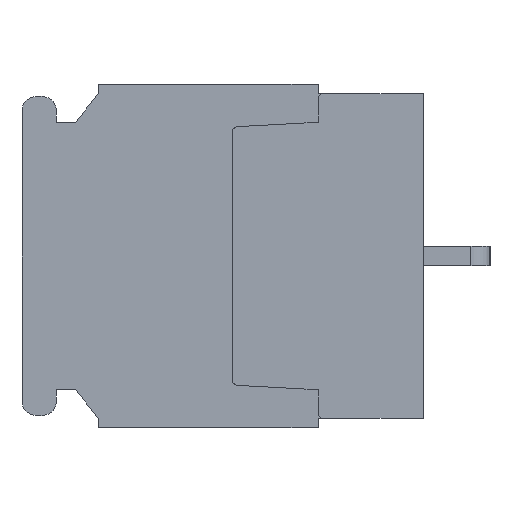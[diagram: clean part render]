
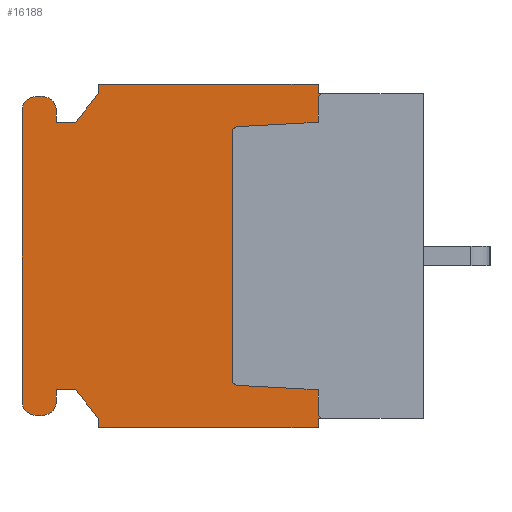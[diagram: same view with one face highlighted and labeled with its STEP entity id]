
A CAD part, left-side view. The second image highlights one B-rep face of the part: STEP entity #16188.
In plain terms, the highlighted planar face has unit normal (-1, 0, 0).
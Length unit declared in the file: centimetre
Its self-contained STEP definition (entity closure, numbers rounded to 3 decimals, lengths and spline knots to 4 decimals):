
#604=VECTOR('',#16896,1.);
#658=VECTOR('',#16952,1.);
#1254=VECTOR('',#18489,1.);
#1256=VECTOR('',#18492,1.);
#1258=VECTOR('',#18495,1.);
#1259=VECTOR('',#18497,1.);
#1261=VECTOR('',#18500,1.);
#1263=VECTOR('',#18503,1.);
#1265=VECTOR('',#18506,1.);
#1267=VECTOR('',#18509,1.);
#1269=VECTOR('',#18512,1.);
#1272=VECTOR('',#18520,1.);
#1275=VECTOR('',#18528,1.);
#1278=VECTOR('',#18536,1.);
#1281=VECTOR('',#18544,1.);
#1283=VECTOR('',#18547,1.);
#1285=VECTOR('',#18550,1.);
#1777=VECTOR('',#19288,1.);
#1778=VECTOR('',#19289,1.);
#1779=VECTOR('',#19292,1.);
#1780=VECTOR('',#19295,1.);
#1781=VECTOR('',#19296,1.);
#2280=LINE('',#20356,#604);
#2334=LINE('',#20463,#658);
#2930=LINE('',#22422,#1254);
#2932=LINE('',#22426,#1256);
#2934=LINE('',#22430,#1258);
#2935=LINE('',#22432,#1259);
#2937=LINE('',#22436,#1261);
#2939=LINE('',#22440,#1263);
#2941=LINE('',#22444,#1265);
#2943=LINE('',#22448,#1267);
#2945=LINE('',#22452,#1269);
#2948=LINE('',#22460,#1272);
#2951=LINE('',#22468,#1275);
#2954=LINE('',#22476,#1278);
#2957=LINE('',#22484,#1281);
#2959=LINE('',#22488,#1283);
#2961=LINE('',#22492,#1285);
#3453=LINE('',#24219,#1777);
#3454=LINE('',#24221,#1778);
#3455=LINE('',#24225,#1779);
#3456=LINE('',#24229,#1780);
#3457=LINE('',#24231,#1781);
#4326=PLANE('',#26748);
#4732=CIRCLE('',#26529,0.075);
#4733=CIRCLE('',#26532,0.075);
#4734=CIRCLE('',#26535,0.075);
#4735=CIRCLE('',#26538,0.075);
#4758=CIRCLE('',#26749,0.03);
#4759=CIRCLE('',#26750,0.03);
#4760=CIRCLE('',#26751,0.03);
#4761=CIRCLE('',#26752,0.03);
#4957=VERTEX_POINT('',#20355);
#4958=VERTEX_POINT('',#20357);
#5008=VERTEX_POINT('',#20462);
#5009=VERTEX_POINT('',#20464);
#5574=VERTEX_POINT('',#22421);
#5575=VERTEX_POINT('',#22423);
#5576=VERTEX_POINT('',#22427);
#5577=VERTEX_POINT('',#22433);
#5578=VERTEX_POINT('',#22437);
#5579=VERTEX_POINT('',#22441);
#5580=VERTEX_POINT('',#22445);
#5581=VERTEX_POINT('',#22449);
#5582=VERTEX_POINT('',#22453);
#5583=VERTEX_POINT('',#22457);
#5584=VERTEX_POINT('',#22461);
#5585=VERTEX_POINT('',#22465);
#5586=VERTEX_POINT('',#22469);
#5587=VERTEX_POINT('',#22473);
#5588=VERTEX_POINT('',#22477);
#5589=VERTEX_POINT('',#22481);
#5590=VERTEX_POINT('',#22485);
#5591=VERTEX_POINT('',#22489);
#5994=VERTEX_POINT('',#24218);
#5995=VERTEX_POINT('',#24220);
#5996=VERTEX_POINT('',#24222);
#5997=VERTEX_POINT('',#24224);
#5998=VERTEX_POINT('',#24226);
#5999=VERTEX_POINT('',#24228);
#6000=VERTEX_POINT('',#24230);
#6001=VERTEX_POINT('',#24232);
#6638=EDGE_CURVE('',#4958,#4957,#2280,.T.);
#6692=EDGE_CURVE('',#5009,#5008,#2334,.T.);
#7592=EDGE_CURVE('',#5575,#5574,#2930,.T.);
#7594=EDGE_CURVE('',#5576,#5575,#2932,.T.);
#7596=EDGE_CURVE('',#4957,#5576,#2934,.T.);
#7597=EDGE_CURVE('',#5577,#5009,#2935,.T.);
#7599=EDGE_CURVE('',#5578,#5577,#2937,.T.);
#7601=EDGE_CURVE('',#5579,#5578,#2939,.T.);
#7603=EDGE_CURVE('',#5580,#5579,#2941,.T.);
#7605=EDGE_CURVE('',#5581,#5580,#2943,.T.);
#7607=EDGE_CURVE('',#5582,#5581,#2945,.T.);
#7609=EDGE_CURVE('',#5582,#5583,#4732,.T.);
#7611=EDGE_CURVE('',#5584,#5583,#2948,.T.);
#7613=EDGE_CURVE('',#5584,#5585,#4733,.T.);
#7615=EDGE_CURVE('',#5586,#5585,#2951,.T.);
#7617=EDGE_CURVE('',#5586,#5587,#4734,.T.);
#7619=EDGE_CURVE('',#5588,#5587,#2954,.T.);
#7621=EDGE_CURVE('',#5588,#5589,#4735,.T.);
#7623=EDGE_CURVE('',#5590,#5589,#2957,.T.);
#7625=EDGE_CURVE('',#5591,#5590,#2959,.T.);
#7627=EDGE_CURVE('',#5574,#5591,#2961,.T.);
#8251=EDGE_CURVE('',#5008,#5994,#4758,.T.);
#8252=EDGE_CURVE('',#5994,#5995,#3453,.T.);
#8253=EDGE_CURVE('',#5995,#5996,#3454,.T.);
#8254=EDGE_CURVE('',#5996,#5997,#4759,.T.);
#8255=EDGE_CURVE('',#5997,#5998,#3455,.T.);
#8256=EDGE_CURVE('',#5998,#5999,#4760,.T.);
#8257=EDGE_CURVE('',#5999,#6000,#3456,.T.);
#8258=EDGE_CURVE('',#6000,#6001,#3457,.T.);
#8259=EDGE_CURVE('',#6001,#4958,#4761,.T.);
#12408=ORIENTED_EDGE('',*,*,#8251,.T.);
#12409=ORIENTED_EDGE('',*,*,#8252,.T.);
#12410=ORIENTED_EDGE('',*,*,#8253,.T.);
#12411=ORIENTED_EDGE('',*,*,#8254,.T.);
#12412=ORIENTED_EDGE('',*,*,#8255,.T.);
#12413=ORIENTED_EDGE('',*,*,#8256,.T.);
#12414=ORIENTED_EDGE('',*,*,#8257,.T.);
#12415=ORIENTED_EDGE('',*,*,#8258,.T.);
#12416=ORIENTED_EDGE('',*,*,#8259,.T.);
#12417=ORIENTED_EDGE('',*,*,#6638,.T.);
#12418=ORIENTED_EDGE('',*,*,#7596,.T.);
#12419=ORIENTED_EDGE('',*,*,#7594,.T.);
#12420=ORIENTED_EDGE('',*,*,#7592,.T.);
#12421=ORIENTED_EDGE('',*,*,#7627,.T.);
#12422=ORIENTED_EDGE('',*,*,#7625,.T.);
#12423=ORIENTED_EDGE('',*,*,#7623,.T.);
#12424=ORIENTED_EDGE('',*,*,#7621,.F.);
#12425=ORIENTED_EDGE('',*,*,#7619,.T.);
#12426=ORIENTED_EDGE('',*,*,#7617,.F.);
#12427=ORIENTED_EDGE('',*,*,#7615,.T.);
#12428=ORIENTED_EDGE('',*,*,#7613,.F.);
#12429=ORIENTED_EDGE('',*,*,#7611,.T.);
#12430=ORIENTED_EDGE('',*,*,#7609,.F.);
#12431=ORIENTED_EDGE('',*,*,#7607,.T.);
#12432=ORIENTED_EDGE('',*,*,#7605,.T.);
#12433=ORIENTED_EDGE('',*,*,#7603,.T.);
#12434=ORIENTED_EDGE('',*,*,#7601,.T.);
#12435=ORIENTED_EDGE('',*,*,#7599,.T.);
#12436=ORIENTED_EDGE('',*,*,#7597,.T.);
#12437=ORIENTED_EDGE('',*,*,#6692,.T.);
#14252=EDGE_LOOP('',(#12408,#12409,#12410,#12411,#12412,#12413,#12414,#12415,
#12416,#12417,#12418,#12419,#12420,#12421,#12422,#12423,#12424,#12425,#12426,
#12427,#12428,#12429,#12430,#12431,#12432,#12433,#12434,#12435,#12436,#12437));
#15254=FACE_BOUND('',#14252,.T.);
#16188=ADVANCED_FACE('',(#15254),#4326,.F.);
#16896=DIRECTION('',(0.,1.,0.));
#16952=DIRECTION('',(0.,-1.,0.));
#18489=DIRECTION('',(0.,0.,-1.));
#18492=DIRECTION('',(0.,1.,0.));
#18495=DIRECTION('',(0.,0.,1.));
#18497=DIRECTION('',(0.,0.,1.));
#18500=DIRECTION('',(0.,-1.,0.));
#18503=DIRECTION('',(0.,0.,-1.));
#18506=DIRECTION('',(0.,-0.625,-0.781));
#18509=DIRECTION('',(0.,-1.,0.));
#18512=DIRECTION('',(0.,0.,1.));
#18516=DIRECTION('',(1.,0.,0.));
#18517=DIRECTION('',(0.,0.,-0.075));
#18520=DIRECTION('',(0.,-1.,0.));
#18524=DIRECTION('',(1.,0.,0.));
#18525=DIRECTION('',(0.,0.,-0.075));
#18528=DIRECTION('',(0.,0.,-1.));
#18532=DIRECTION('',(1.,0.,0.));
#18533=DIRECTION('',(0.,0.,-0.075));
#18536=DIRECTION('',(0.,1.,0.));
#18540=DIRECTION('',(1.,0.,0.));
#18541=DIRECTION('',(0.,0.,-0.075));
#18544=DIRECTION('',(0.,0.,1.));
#18547=DIRECTION('',(0.,1.,0.));
#18550=DIRECTION('',(0.,0.625,-0.781));
#19285=DIRECTION('',(1.,0.,0.));
#19286=DIRECTION('',(1.,0.,0.));
#19287=DIRECTION('',(0.,0.,-0.03));
#19288=DIRECTION('',(0.,0.,1.));
#19289=DIRECTION('',(0.,0.999,0.054));
#19290=DIRECTION('',(1.,0.,0.));
#19291=DIRECTION('',(0.,0.,-0.03));
#19292=DIRECTION('',(0.,0.,1.));
#19293=DIRECTION('',(1.,0.,0.));
#19294=DIRECTION('',(0.,0.,-0.03));
#19295=DIRECTION('',(0.,-0.999,0.054));
#19296=DIRECTION('',(0.,0.,1.));
#19297=DIRECTION('',(1.,0.,0.));
#19298=DIRECTION('',(0.,0.,-0.03));
#20355=CARTESIAN_POINT('',(-1.3,0.55,0.85));
#20356=CARTESIAN_POINT('',(-1.3,0.,0.85));
#20357=CARTESIAN_POINT('',(-1.3,0.52,0.85));
#20462=CARTESIAN_POINT('',(-1.3,0.52,-0.85));
#20463=CARTESIAN_POINT('',(-1.3,0.55,-0.85));
#20464=CARTESIAN_POINT('',(-1.3,0.55,-0.85));
#22421=CARTESIAN_POINT('',(-1.3,1.7,0.85));
#22422=CARTESIAN_POINT('',(-1.3,1.7,0.9));
#22423=CARTESIAN_POINT('',(-1.3,1.7,0.9));
#22426=CARTESIAN_POINT('',(-1.3,0.55,0.9));
#22427=CARTESIAN_POINT('',(-1.3,0.55,0.9));
#22430=CARTESIAN_POINT('',(-1.3,0.55,0.85));
#22432=CARTESIAN_POINT('',(-1.3,0.55,-0.9));
#22433=CARTESIAN_POINT('',(-1.3,0.55,-0.9));
#22436=CARTESIAN_POINT('',(-1.3,1.7,-0.9));
#22437=CARTESIAN_POINT('',(-1.3,1.7,-0.9));
#22440=CARTESIAN_POINT('',(-1.3,1.7,-0.85));
#22441=CARTESIAN_POINT('',(-1.3,1.7,-0.85));
#22444=CARTESIAN_POINT('',(-1.3,1.82,-0.7));
#22445=CARTESIAN_POINT('',(-1.3,1.82,-0.7));
#22448=CARTESIAN_POINT('',(-1.3,1.92,-0.7));
#22449=CARTESIAN_POINT('',(-1.3,1.92,-0.7));
#22452=CARTESIAN_POINT('',(-1.3,1.92,-0.76));
#22453=CARTESIAN_POINT('',(-1.3,1.92,-0.76));
#22456=CARTESIAN_POINT('',(-1.3,1.995,-0.76));
#22457=CARTESIAN_POINT('',(-1.3,1.995,-0.835));
#22460=CARTESIAN_POINT('',(-1.3,2.025,-0.835));
#22461=CARTESIAN_POINT('',(-1.3,2.025,-0.835));
#22464=CARTESIAN_POINT('',(-1.3,2.025,-0.76));
#22465=CARTESIAN_POINT('',(-1.3,2.1,-0.76));
#22468=CARTESIAN_POINT('',(-1.3,2.1,0.76));
#22469=CARTESIAN_POINT('',(-1.3,2.1,0.76));
#22472=CARTESIAN_POINT('',(-1.3,2.025,0.76));
#22473=CARTESIAN_POINT('',(-1.3,2.025,0.835));
#22476=CARTESIAN_POINT('',(-1.3,1.995,0.835));
#22477=CARTESIAN_POINT('',(-1.3,1.995,0.835));
#22480=CARTESIAN_POINT('',(-1.3,1.995,0.76));
#22481=CARTESIAN_POINT('',(-1.3,1.92,0.76));
#22484=CARTESIAN_POINT('',(-1.3,1.92,0.7));
#22485=CARTESIAN_POINT('',(-1.3,1.92,0.7));
#22488=CARTESIAN_POINT('',(-1.3,1.82,0.7));
#22489=CARTESIAN_POINT('',(-1.3,1.82,0.7));
#22492=CARTESIAN_POINT('',(-1.3,1.7,0.85));
#24216=CARTESIAN_POINT('',(-1.3,1.0745,0.));
#24217=CARTESIAN_POINT('',(-1.3,0.52,-0.82));
#24218=CARTESIAN_POINT('',(-1.3,0.55,-0.82));
#24219=CARTESIAN_POINT('',(-1.3,0.55,-0.38));
#24220=CARTESIAN_POINT('',(-1.3,0.55,-0.7));
#24221=CARTESIAN_POINT('',(-1.3,0.9358,-0.6792));
#24222=CARTESIAN_POINT('',(-1.3,0.9718,-0.6773));
#24223=CARTESIAN_POINT('',(-1.3,0.97,-0.6473));
#24224=CARTESIAN_POINT('',(-1.3,1.,-0.6473));
#24225=CARTESIAN_POINT('',(-1.3,1.,0.));
#24226=CARTESIAN_POINT('',(-1.3,1.,0.6473));
#24227=CARTESIAN_POINT('',(-1.3,0.97,0.6473));
#24228=CARTESIAN_POINT('',(-1.3,0.9718,0.6773));
#24229=CARTESIAN_POINT('',(-1.3,0.9358,0.6792));
#24230=CARTESIAN_POINT('',(-1.3,0.55,0.7));
#24231=CARTESIAN_POINT('',(-1.3,0.55,0.38));
#24232=CARTESIAN_POINT('',(-1.3,0.55,0.82));
#24233=CARTESIAN_POINT('',(-1.3,0.52,0.82));
#26529=AXIS2_PLACEMENT_3D('',#22456,#18516,#18517);
#26532=AXIS2_PLACEMENT_3D('',#22464,#18524,#18525);
#26535=AXIS2_PLACEMENT_3D('',#22472,#18532,#18533);
#26538=AXIS2_PLACEMENT_3D('',#22480,#18540,#18541);
#26748=AXIS2_PLACEMENT_3D('',#24216,#19285,$);
#26749=AXIS2_PLACEMENT_3D('',#24217,#19286,#19287);
#26750=AXIS2_PLACEMENT_3D('',#24223,#19290,#19291);
#26751=AXIS2_PLACEMENT_3D('',#24227,#19293,#19294);
#26752=AXIS2_PLACEMENT_3D('',#24233,#19297,#19298);
